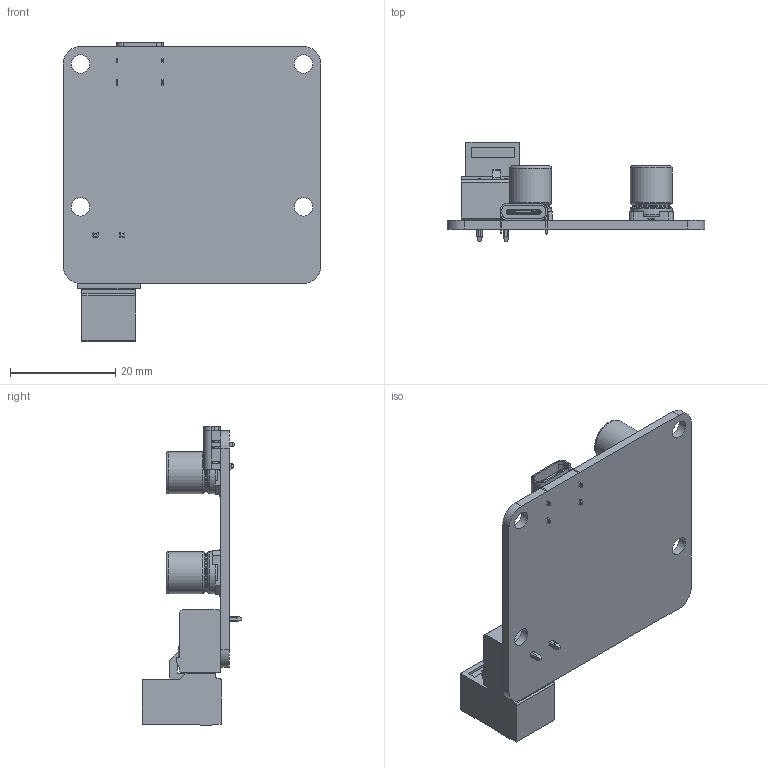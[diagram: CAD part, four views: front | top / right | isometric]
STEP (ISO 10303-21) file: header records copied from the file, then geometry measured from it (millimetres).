
FILE_DESCRIPTION(/* description */ (''),/* implementation_level */ '2;1');
FILE_NAME(/* name */ 'C:/Users/Leo Pinto/Documents/Fusion 360/AA PCBAs/CG-PDC100W-PCBA/CG-PDC100W-PCBA Model3D LPV1.step',/* time_stamp */ '2022-07-08T06:26:36-04:00',/* author */ (''),/* organization */ (''),/* preprocessor_version */ 'ST-DEVELOPER v19',/* originating_system */ 'Autodesk Translation Framework v11.7.0.108',/* authorisation */ '');
FILE_SCHEMA (('AUTOMOTIVE_DESIGN { 1 0 10303 214 3 1 1 }'));
Length unit declared in the file: millimetre
Products named in the file (9): CG-PDC100W-PCBA; Cilinder tall conden C115CG-43AB1; 8x10.5x3; capicitor_8x10.5x3; 8Capacitor; Connector green Phoenix 2 holes female 5.08; Connector green phoenix 2pines male 5.08 v6; USB type C mounting pcb v3; TypeC(12)
Assembly tree (9 placements, depth 4):
  CG-PDC100W-PCBA
    Cilinder tall conden C115CG-43AB1  x2
      8x10.5x3
        capicitor_8x10.5x3
        8Capacitor
    Connector green Phoenix 2 holes female 5.08
      Connector green phoenix 2pines male 5.08 v6
    USB type C mounting pcb v3
      TypeC(12)
Bounding box: 49.1 x 18.93 x 56.94 mm (x, y, z)
Volume: 7038.9 mm3; surface area: 8619.4 mm2
Topology: 8 solids, 8 shells, 1016 faces, 2722 edges, 1782 vertices
Faces by surface type: plane 721, cylinder 251, torus 18, cone 12, bspline 8, sphere 6
Full cylindrical faces by diameter (mm): 0.5 x2, 1 x14, 1.16 x2, 1.2 x4, 1.6 x2, 1.96 x2, 2.12 x2, 2.92 x2, 3.08 x2, 3.5 x4, 3.86 x2, 5.5 x4, 5.6 x2, 7.12 x2, 8 x4
Entity records: 28727 total; most frequent: CARTESIAN_POINT 5217, ORIENTED_EDGE 4834, DIRECTION 4753, EDGE_CURVE 2417, LINE 1883, VECTOR 1883, VERTEX_POINT 1581, AXIS2_PLACEMENT_3D 1435
